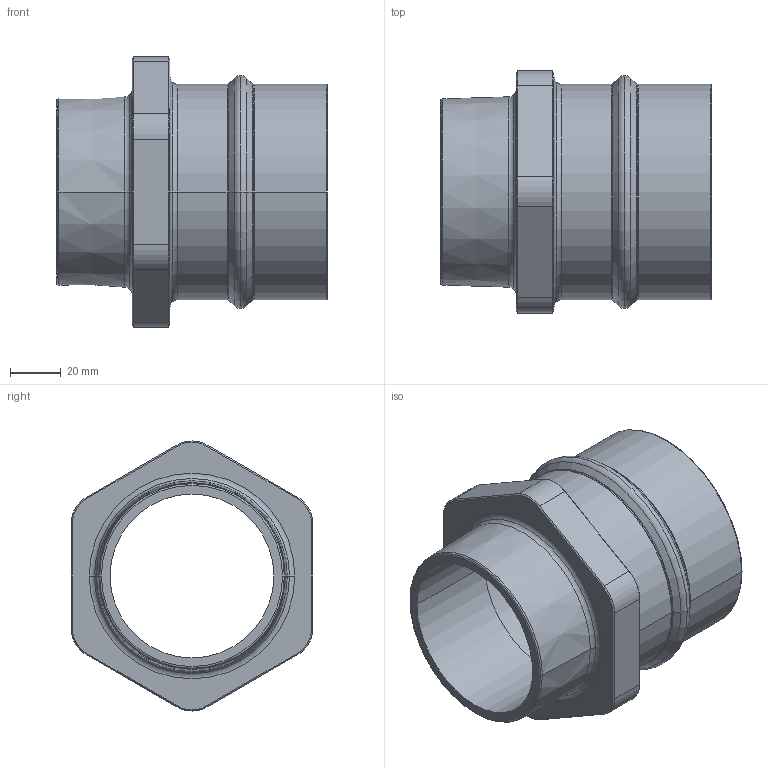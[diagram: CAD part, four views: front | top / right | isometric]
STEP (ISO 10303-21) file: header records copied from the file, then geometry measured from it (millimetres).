
FILE_DESCRIPTION((''),'2;1');
FILE_NAME('2014761700','2017-05-15T',('Administrator'),(''),'PRO/ENGINEER BY PARAMETRIC TECHNOLOGY CORPORATION, 2009360','PRO/ENGINEER BY PARAMETRIC TECHNOLOGY CORPORATION, 2009360','');
FILE_SCHEMA(('AUTOMOTIVE_DESIGN_CC2 { 1 2 10303 214 -1 1 5 2 }'));
Length unit declared in the file: millimetre
Products named in the file (1): 2014761700
Bounding box: 106.36 x 94.98 x 106 mm (x, y, z)
Volume: 148613.1 mm3; surface area: 60638.6 mm2
Topology: 1 solids, 1 shells, 87 faces, 193 edges, 111 vertices
Faces by surface type: torus 32, plane 23, cone 20, cylinder 12
Entity records: 3028 total; most frequent: DIRECTION 486, CARTESIAN_POINT 391, ORIENTED_EDGE 386, AXIS2_PLACEMENT_3D 206, PRESENTATION_STYLE_ASSIGNMENT 194, STYLED_ITEM 194, CURVE_STYLE 193, EDGE_CURVE 193
